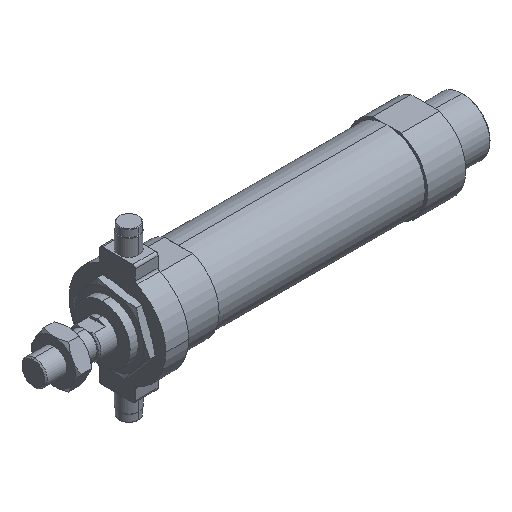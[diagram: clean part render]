
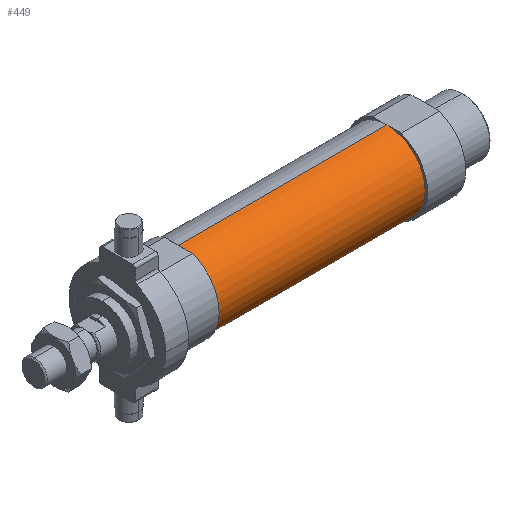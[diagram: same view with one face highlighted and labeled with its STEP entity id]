
A CAD part, isometric view. The second image highlights one B-rep face of the part: STEP entity #449.
In plain terms, the highlighted cylindrical face has radius 15 mm (diameter 30 mm), a partial arc.
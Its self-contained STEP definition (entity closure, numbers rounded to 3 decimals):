
#282 = AXIS2_PLACEMENT_3D ( 'NONE', #1422, #734, #3224 ) ;
#300 = CIRCLE ( 'NONE', #891, 15. ) ;
#394 = CARTESIAN_POINT ( 'NONE',  ( -6.469, 0., 15. ) ) ;
#403 = ORIENTED_EDGE ( 'NONE', *, *, #2077, .T. ) ;
#449 = ADVANCED_FACE ( 'NONE', ( #4013 ), #1846, .T. ) ;
#575 = CARTESIAN_POINT ( 'NONE',  ( 139., 0., -15. ) ) ;
#689 = CARTESIAN_POINT ( 'NONE',  ( 57., 0., -15. ) ) ;
#731 = CARTESIAN_POINT ( 'NONE',  ( -6.469, 0., -15. ) ) ;
#734 = DIRECTION ( 'NONE',  ( -1., 0., 0. ) ) ;
#891 = AXIS2_PLACEMENT_3D ( 'NONE', #1556, #2121, #3136 ) ;
#949 = EDGE_CURVE ( 'NONE', #4179, #2806, #962, .T. ) ;
#962 = LINE ( 'NONE', #394, #2153 ) ;
#1103 = EDGE_LOOP ( 'NONE', ( #3454, #403, #4096, #4167 ) ) ;
#1158 = DIRECTION ( 'NONE',  ( -1., 0., 0. ) ) ;
#1349 = CIRCLE ( 'NONE', #3280, 15. ) ;
#1415 = DIRECTION ( 'NONE',  ( -1., 0., 0. ) ) ;
#1422 = CARTESIAN_POINT ( 'NONE',  ( -6.469, 0., 0. ) ) ;
#1556 = CARTESIAN_POINT ( 'NONE',  ( 57., 0., 0. ) ) ;
#1756 = CARTESIAN_POINT ( 'NONE',  ( 139., 0., 0. ) ) ;
#1846 = CYLINDRICAL_SURFACE ( 'NONE', #282, 15. ) ;
#2077 = EDGE_CURVE ( 'NONE', #3378, #4179, #1349, .T. ) ;
#2114 = DIRECTION ( 'NONE',  ( -1., 0., 0. ) ) ;
#2121 = DIRECTION ( 'NONE',  ( -1., 0., 0. ) ) ;
#2153 = VECTOR ( 'NONE', #1158, 1000. ) ;
#2567 = EDGE_CURVE ( 'NONE', #4037, #2806, #300, .T. ) ;
#2609 = EDGE_CURVE ( 'NONE', #3378, #4037, #2638, .T. ) ;
#2638 = LINE ( 'NONE', #731, #3724 ) ;
#2759 = CARTESIAN_POINT ( 'NONE',  ( 139., 0., 15. ) ) ;
#2806 = VERTEX_POINT ( 'NONE', #3297 ) ;
#3136 = DIRECTION ( 'NONE',  ( 0., 0., 1. ) ) ;
#3224 = DIRECTION ( 'NONE',  ( 0., 0., 1. ) ) ;
#3280 = AXIS2_PLACEMENT_3D ( 'NONE', #1756, #2114, #4000 ) ;
#3297 = CARTESIAN_POINT ( 'NONE',  ( 57., 0., 15. ) ) ;
#3378 = VERTEX_POINT ( 'NONE', #575 ) ;
#3454 = ORIENTED_EDGE ( 'NONE', *, *, #2609, .F. ) ;
#3724 = VECTOR ( 'NONE', #1415, 1000. ) ;
#4000 = DIRECTION ( 'NONE',  ( 0., 0., 1. ) ) ;
#4013 = FACE_OUTER_BOUND ( 'NONE', #1103, .T. ) ;
#4037 = VERTEX_POINT ( 'NONE', #689 ) ;
#4096 = ORIENTED_EDGE ( 'NONE', *, *, #949, .T. ) ;
#4167 = ORIENTED_EDGE ( 'NONE', *, *, #2567, .F. ) ;
#4179 = VERTEX_POINT ( 'NONE', #2759 ) ;
